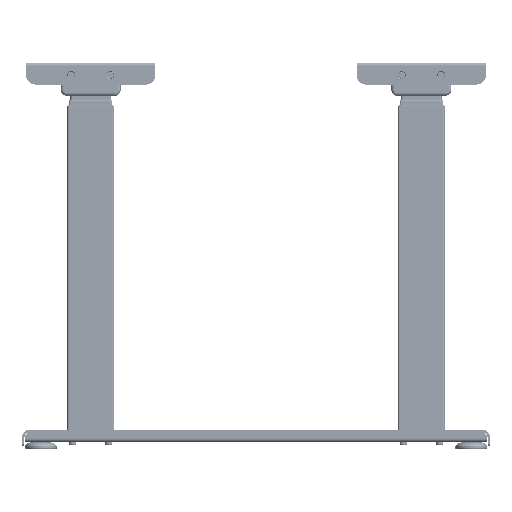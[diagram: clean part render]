
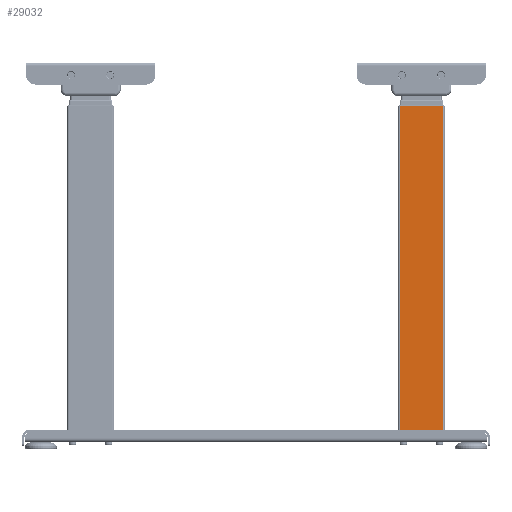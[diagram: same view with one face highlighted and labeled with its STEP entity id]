
A CAD part, left-side view. The second image highlights one B-rep face of the part: STEP entity #29032.
In plain terms, the highlighted planar face has unit normal (-1, 0, 0).
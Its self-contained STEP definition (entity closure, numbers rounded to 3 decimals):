
#4057=ORIENTED_EDGE('',*,*,#12442,.T.);
#4058=ORIENTED_EDGE('',*,*,#12452,.F.);
#4059=ORIENTED_EDGE('',*,*,#12453,.F.);
#4060=ORIENTED_EDGE('',*,*,#12454,.F.);
#12442=EDGE_CURVE('',#16683,#16682,#19494,.T.);
#12452=EDGE_CURVE('',#16689,#16682,#19502,.T.);
#12453=EDGE_CURVE('',#16690,#16689,#19503,.T.);
#12454=EDGE_CURVE('',#16683,#16690,#19504,.T.);
#16682=VERTEX_POINT('',#46360);
#16683=VERTEX_POINT('',#46362);
#16689=VERTEX_POINT('',#46381);
#16690=VERTEX_POINT('',#46383);
#19494=LINE('',#46361,#21943);
#19502=LINE('',#46380,#21951);
#19503=LINE('',#46382,#21952);
#19504=LINE('',#46384,#21953);
#21943=VECTOR('',#38093,1000.);
#21951=VECTOR('',#38111,1000.);
#21952=VECTOR('',#38112,1000.);
#21953=VECTOR('',#38113,1000.);
#24401=EDGE_LOOP('',(#4057,#4058,#4059,#4060));
#26356=FACE_BOUND('',#24401,.T.);
#28119=PLANE('',#34619);
#29032=ADVANCED_FACE('',(#26356),#28119,.T.);
#34619=AXIS2_PLACEMENT_3D('',#46379,#38109,#38110);
#38093=DIRECTION('',(0.,1.,0.));
#38109=DIRECTION('',(-1.,0.,0.));
#38110=DIRECTION('',(0.,-1.,0.));
#38111=DIRECTION('',(0.,0.,1.));
#38112=DIRECTION('',(0.,1.,0.));
#38113=DIRECTION('',(0.,0.,-1.));
#46360=CARTESIAN_POINT('',(32.893,472.9,579.9));
#46361=CARTESIAN_POINT('',(32.893,403.9,579.9));
#46362=CARTESIAN_POINT('',(32.893,403.9,579.9));
#46379=CARTESIAN_POINT('',(32.893,438.4,320.9));
#46380=CARTESIAN_POINT('',(32.893,472.9,61.9));
#46381=CARTESIAN_POINT('',(32.893,472.9,61.9));
#46382=CARTESIAN_POINT('',(32.893,403.9,61.9));
#46383=CARTESIAN_POINT('',(32.893,403.9,61.9));
#46384=CARTESIAN_POINT('',(32.893,403.9,579.9));
